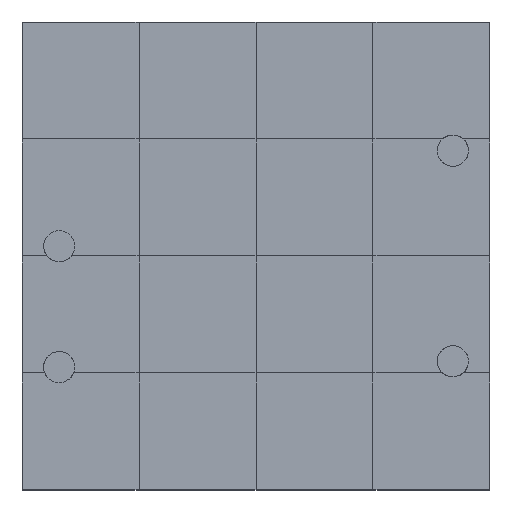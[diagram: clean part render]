
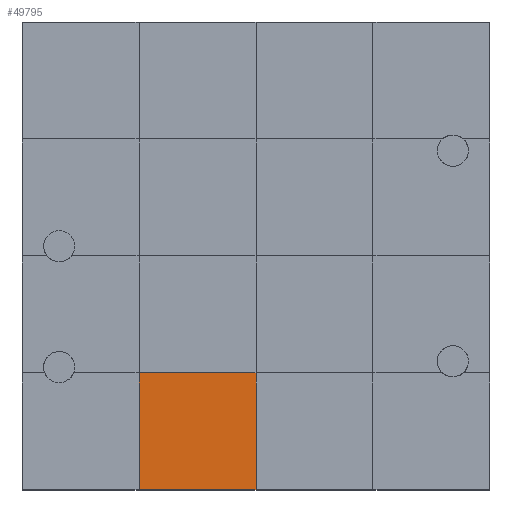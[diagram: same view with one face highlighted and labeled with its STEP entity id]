
A CAD part, top view. The second image highlights one B-rep face of the part: STEP entity #49795.
In plain terms, the highlighted planar face has unit normal (0, 0, 1).
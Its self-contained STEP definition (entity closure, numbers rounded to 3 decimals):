
#48225 = PLANE('',#48226);
#48226 = AXIS2_PLACEMENT_3D('',#48227,#48228,#48229);
#48227 = CARTESIAN_POINT('',(0.,0.,1.5));
#48228 = DIRECTION('',(0.,0.,1.));
#48229 = DIRECTION('',(1.,0.,-0.));
#48265 = VERTEX_POINT('',#48266);
#48266 = CARTESIAN_POINT('',(3.,0.,1.5));
#48301 = PLANE('',#48302);
#48302 = AXIS2_PLACEMENT_3D('',#48303,#48304,#48305);
#48303 = CARTESIAN_POINT('',(3.,0.,0.));
#48304 = DIRECTION('',(-0.,1.,0.));
#48305 = DIRECTION('',(0.,0.,1.));
#48318 = EDGE_CURVE('',#48265,#48319,#48321,.T.);
#48319 = VERTEX_POINT('',#48320);
#48320 = CARTESIAN_POINT('',(3.,3.,1.5));
#48321 = SURFACE_CURVE('',#48322,(#48326,#48333),.PCURVE_S1.);
#48322 = LINE('',#48323,#48324);
#48323 = CARTESIAN_POINT('',(3.,0.,1.5));
#48324 = VECTOR('',#48325,1.);
#48325 = DIRECTION('',(-0.,1.,0.));
#48326 = PCURVE('',#48225,#48327);
#48327 = DEFINITIONAL_REPRESENTATION('',(#48328),#48332);
#48328 = LINE('',#48329,#48330);
#48329 = CARTESIAN_POINT('',(3.,0.));
#48330 = VECTOR('',#48331,1.);
#48331 = DIRECTION('',(0.,1.));
#48332 = ( GEOMETRIC_REPRESENTATION_CONTEXT(2) 
PARAMETRIC_REPRESENTATION_CONTEXT() REPRESENTATION_CONTEXT('2D SPACE',''
  ) );
#48333 = PCURVE('',#48334,#48339);
#48334 = PLANE('',#48335);
#48335 = AXIS2_PLACEMENT_3D('',#48336,#48337,#48338);
#48336 = CARTESIAN_POINT('',(3.,0.,1.5));
#48337 = DIRECTION('',(0.,0.,1.));
#48338 = DIRECTION('',(1.,0.,-0.));
#48339 = DEFINITIONAL_REPRESENTATION('',(#48340),#48344);
#48340 = LINE('',#48341,#48342);
#48341 = CARTESIAN_POINT('',(0.,0.));
#48342 = VECTOR('',#48343,1.);
#48343 = DIRECTION('',(0.,1.));
#48344 = ( GEOMETRIC_REPRESENTATION_CONTEXT(2) 
PARAMETRIC_REPRESENTATION_CONTEXT() REPRESENTATION_CONTEXT('2D SPACE',''
  ) );
#48586 = EDGE_CURVE('',#48265,#48587,#48589,.T.);
#48587 = VERTEX_POINT('',#48588);
#48588 = CARTESIAN_POINT('',(6.,0.,1.5));
#48589 = SURFACE_CURVE('',#48590,(#48594,#48601),.PCURVE_S1.);
#48590 = LINE('',#48591,#48592);
#48591 = CARTESIAN_POINT('',(3.,0.,1.5));
#48592 = VECTOR('',#48593,1.);
#48593 = DIRECTION('',(1.,0.,-0.));
#48594 = PCURVE('',#48301,#48595);
#48595 = DEFINITIONAL_REPRESENTATION('',(#48596),#48600);
#48596 = LINE('',#48597,#48598);
#48597 = CARTESIAN_POINT('',(1.5,0.));
#48598 = VECTOR('',#48599,1.);
#48599 = DIRECTION('',(0.,1.));
#48600 = ( GEOMETRIC_REPRESENTATION_CONTEXT(2) 
PARAMETRIC_REPRESENTATION_CONTEXT() REPRESENTATION_CONTEXT('2D SPACE',''
  ) );
#48601 = PCURVE('',#48334,#48602);
#48602 = DEFINITIONAL_REPRESENTATION('',(#48603),#48607);
#48603 = LINE('',#48604,#48605);
#48604 = CARTESIAN_POINT('',(0.,0.));
#48605 = VECTOR('',#48606,1.);
#48606 = DIRECTION('',(1.,0.));
#48607 = ( GEOMETRIC_REPRESENTATION_CONTEXT(2) 
PARAMETRIC_REPRESENTATION_CONTEXT() REPRESENTATION_CONTEXT('2D SPACE',''
  ) );
#48703 = PLANE('',#48704);
#48704 = AXIS2_PLACEMENT_3D('',#48705,#48706,#48707);
#48705 = CARTESIAN_POINT('',(3.,3.,1.5));
#48706 = DIRECTION('',(0.,0.,1.));
#48707 = DIRECTION('',(1.,0.,-0.));
#49795 = ADVANCED_FACE('',(#49796),#48334,.T.);
#49796 = FACE_BOUND('',#49797,.T.);
#49797 = EDGE_LOOP('',(#49798,#49799,#49800,#49828));
#49798 = ORIENTED_EDGE('',*,*,#48318,.F.);
#49799 = ORIENTED_EDGE('',*,*,#48586,.T.);
#49800 = ORIENTED_EDGE('',*,*,#49801,.T.);
#49801 = EDGE_CURVE('',#48587,#49802,#49804,.T.);
#49802 = VERTEX_POINT('',#49803);
#49803 = CARTESIAN_POINT('',(6.,3.,1.5));
#49804 = SURFACE_CURVE('',#49805,(#49809,#49816),.PCURVE_S1.);
#49805 = LINE('',#49806,#49807);
#49806 = CARTESIAN_POINT('',(6.,0.,1.5));
#49807 = VECTOR('',#49808,1.);
#49808 = DIRECTION('',(-0.,1.,0.));
#49809 = PCURVE('',#48334,#49810);
#49810 = DEFINITIONAL_REPRESENTATION('',(#49811),#49815);
#49811 = LINE('',#49812,#49813);
#49812 = CARTESIAN_POINT('',(3.,0.));
#49813 = VECTOR('',#49814,1.);
#49814 = DIRECTION('',(0.,1.));
#49815 = ( GEOMETRIC_REPRESENTATION_CONTEXT(2) 
PARAMETRIC_REPRESENTATION_CONTEXT() REPRESENTATION_CONTEXT('2D SPACE',''
  ) );
#49816 = PCURVE('',#49817,#49822);
#49817 = PLANE('',#49818);
#49818 = AXIS2_PLACEMENT_3D('',#49819,#49820,#49821);
#49819 = CARTESIAN_POINT('',(6.,0.,1.5));
#49820 = DIRECTION('',(0.,0.,1.));
#49821 = DIRECTION('',(1.,0.,-0.));
#49822 = DEFINITIONAL_REPRESENTATION('',(#49823),#49827);
#49823 = LINE('',#49824,#49825);
#49824 = CARTESIAN_POINT('',(0.,0.));
#49825 = VECTOR('',#49826,1.);
#49826 = DIRECTION('',(0.,1.));
#49827 = ( GEOMETRIC_REPRESENTATION_CONTEXT(2) 
PARAMETRIC_REPRESENTATION_CONTEXT() REPRESENTATION_CONTEXT('2D SPACE',''
  ) );
#49828 = ORIENTED_EDGE('',*,*,#49829,.F.);
#49829 = EDGE_CURVE('',#48319,#49802,#49830,.T.);
#49830 = SURFACE_CURVE('',#49831,(#49835,#49842),.PCURVE_S1.);
#49831 = LINE('',#49832,#49833);
#49832 = CARTESIAN_POINT('',(3.,3.,1.5));
#49833 = VECTOR('',#49834,1.);
#49834 = DIRECTION('',(1.,0.,-0.));
#49835 = PCURVE('',#48334,#49836);
#49836 = DEFINITIONAL_REPRESENTATION('',(#49837),#49841);
#49837 = LINE('',#49838,#49839);
#49838 = CARTESIAN_POINT('',(0.,3.));
#49839 = VECTOR('',#49840,1.);
#49840 = DIRECTION('',(1.,0.));
#49841 = ( GEOMETRIC_REPRESENTATION_CONTEXT(2) 
PARAMETRIC_REPRESENTATION_CONTEXT() REPRESENTATION_CONTEXT('2D SPACE',''
  ) );
#49842 = PCURVE('',#48703,#49843);
#49843 = DEFINITIONAL_REPRESENTATION('',(#49844),#49848);
#49844 = LINE('',#49845,#49846);
#49845 = CARTESIAN_POINT('',(0.,0.));
#49846 = VECTOR('',#49847,1.);
#49847 = DIRECTION('',(1.,0.));
#49848 = ( GEOMETRIC_REPRESENTATION_CONTEXT(2) 
PARAMETRIC_REPRESENTATION_CONTEXT() REPRESENTATION_CONTEXT('2D SPACE',''
  ) );
